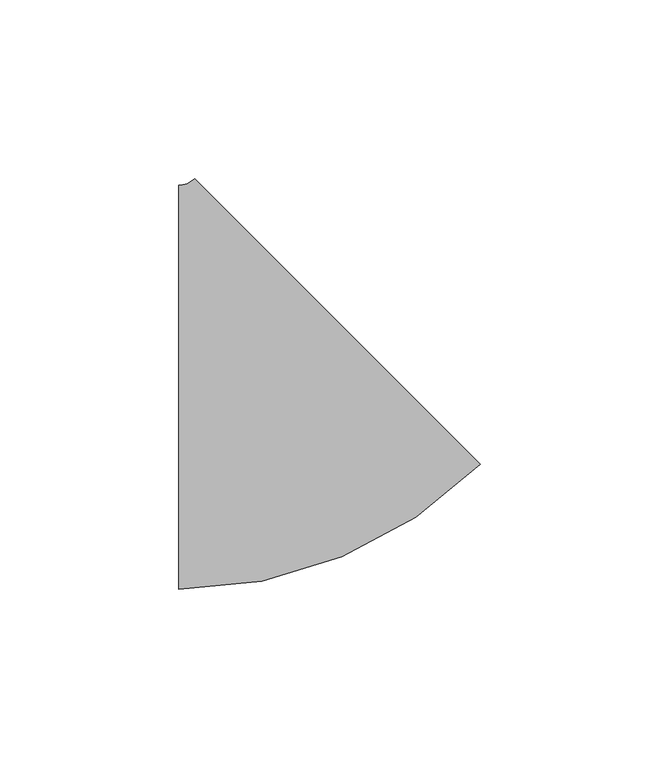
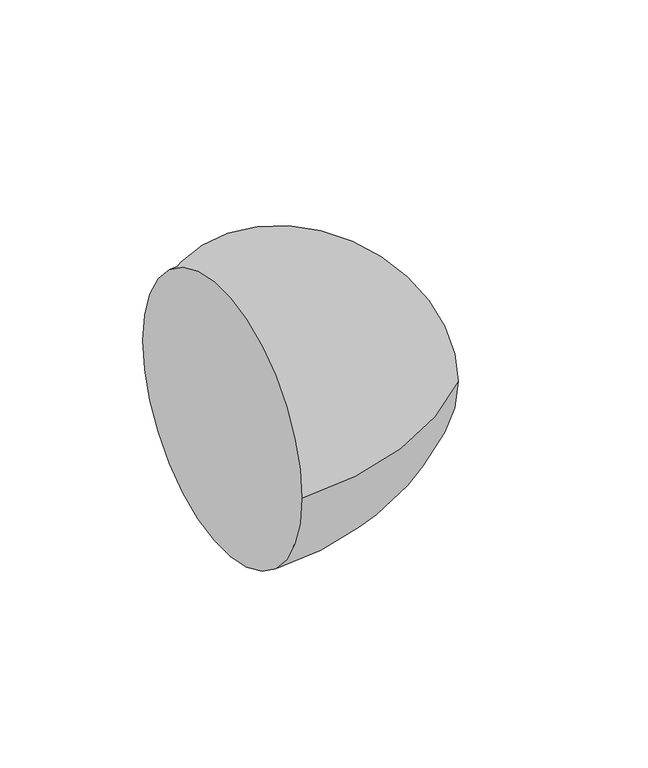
"""IFC4 building model written with IfcOpenShell, lengths in millimetres: pipe fitting geometry, M_Codo - Genérico : Estándar."""

from ifc_helpers import new_model, si_unit, point, frame, origin, place, context, project, spatial, circle_curve, ellipse_curve, trimmed, source, transform, mapped, element, save
from ifc_brep_helpers import plane_surface, revolved_surface, advanced_brep


def pipe_fitting_63d3a48a(model_context):
    return source(origin(), model_context, "Body", "AdvancedBrep", [
        advanced_brep(
        [(-26.0671178, -56.5875, 0.0), (-26.0671178, 56.5875, 0.0), (58.4442074, -21.5850505, 0.0), (-21.5772879, 58.4470738, 0.0)],
        [
            (0, 1, circle_curve(frame((-26.0671178, 0.0, 0.0), z_axis=(-1.0, 0.0, 0.0), x_axis=(0.0, 1.0, 0.0)), 56.5875)),
            (1, 0, circle_curve(frame((-26.0671178, 0.0, 0.0), z_axis=(-1.0, 0.0, 0.0), x_axis=(0.0, 1.0, 0.0)), 56.5875)),
            (2, 3, circle_curve(frame((18.4334598, 18.4310116, 0.0), z_axis=(0.7071537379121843, 0.707059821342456, 0.0), x_axis=(-0.707059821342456, 0.7071537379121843, 0.0)), 56.5875)),
            (3, 2, circle_curve(frame((18.4334598, 18.4310116, 0.0), z_axis=(0.7071537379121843, 0.707059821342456, 0.0), x_axis=(-0.707059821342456, 0.7071537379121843, 0.0)), 56.5875)),
            (3, 1, circle_curve(frame((-26.0671178, 62.9375, 0.0), z_axis=(0.0, 0.0, -1.0), x_axis=(0.0, -1.0, 0.0)), 6.35)),
            (0, 2, circle_curve(frame((-26.0671178, 62.9375, 0.0), z_axis=(0.0, 0.0, 1.0), x_axis=(0.0, -1.0, 0.0)), 119.525)),
        ],
        [
            plane_surface(frame((-26.0671178, 0.0, 0.0), z_axis=(-1.0, 0.0, 0.0), x_axis=(0.0, 0.0, 1.0))),
            plane_surface(frame((18.4334598, 18.4310116, 0.0), z_axis=(0.7071537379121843, 0.707059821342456, 0.0), x_axis=(0.0, 0.0, 1.0))),
            revolved_surface(trimmed(ellipse_curve(frame((-26.0671178, 0.0, 0.0), z_axis=(-1.0, 0.0, 0.0), x_axis=(0.0, 1.0, 0.0)), 56.5875, 56.5875), [point((-26.0671178, -56.5875, 0.0))], [point((-26.0671178, 56.5875, 0.0))], True, "CARTESIAN"), (-26.0671178, 62.9375, 0.0), (0.0, 0.0, 1.0)),
            revolved_surface(trimmed(ellipse_curve(frame((-26.0671178, 0.0, 0.0), z_axis=(-1.0, 0.0, 0.0), x_axis=(0.0, 1.0, 0.0)), 56.5875, 56.5875), [point((-26.0671178, 56.5875, 0.0))], [point((-26.0671178, -56.5875, 0.0))], True, "CARTESIAN"), (-26.0671178, 62.9375, 0.0), (0.0, 0.0, 1.0)),
        ],
        [
            (0, [[1, 2]]),
            (1, [[3, 4]]),
            (2, [[5, -1, 6, -4]]),
            (3, [[-6, -2, -5, -3]]),
        ],
    ),
    ])


if __name__ == "__main__":
    model = new_model("IFC4")
    model_context = context("Model", 3, world=origin())
    ifc_project = project(units=[si_unit("LENGTHUNIT", "METRE", prefix="MILLI")], contexts=[model_context])
    site = spatial("IfcSite", under=ifc_project)
    building = spatial("IfcBuilding", under=site)
    placement = place(None, origin())
    pipe_fitting_shape = pipe_fitting_63d3a48a(model_context)
    element("IfcPipeFitting", 1, ObjectType="M_Codo - Genérico : Estándar", at=placement, inside=building, context=model_context, shape_type="MappedRepresentation", body=[
        mapped(pipe_fitting_shape, transform((0.0, 0.0, 0.0), x_axis=(1.0, 0.0, 0.0), y_axis=(0.0, 1.0, 0.0), z_axis=(0.0, 0.0, 1.0))),
    ])
    save(model, "model.ifc")
